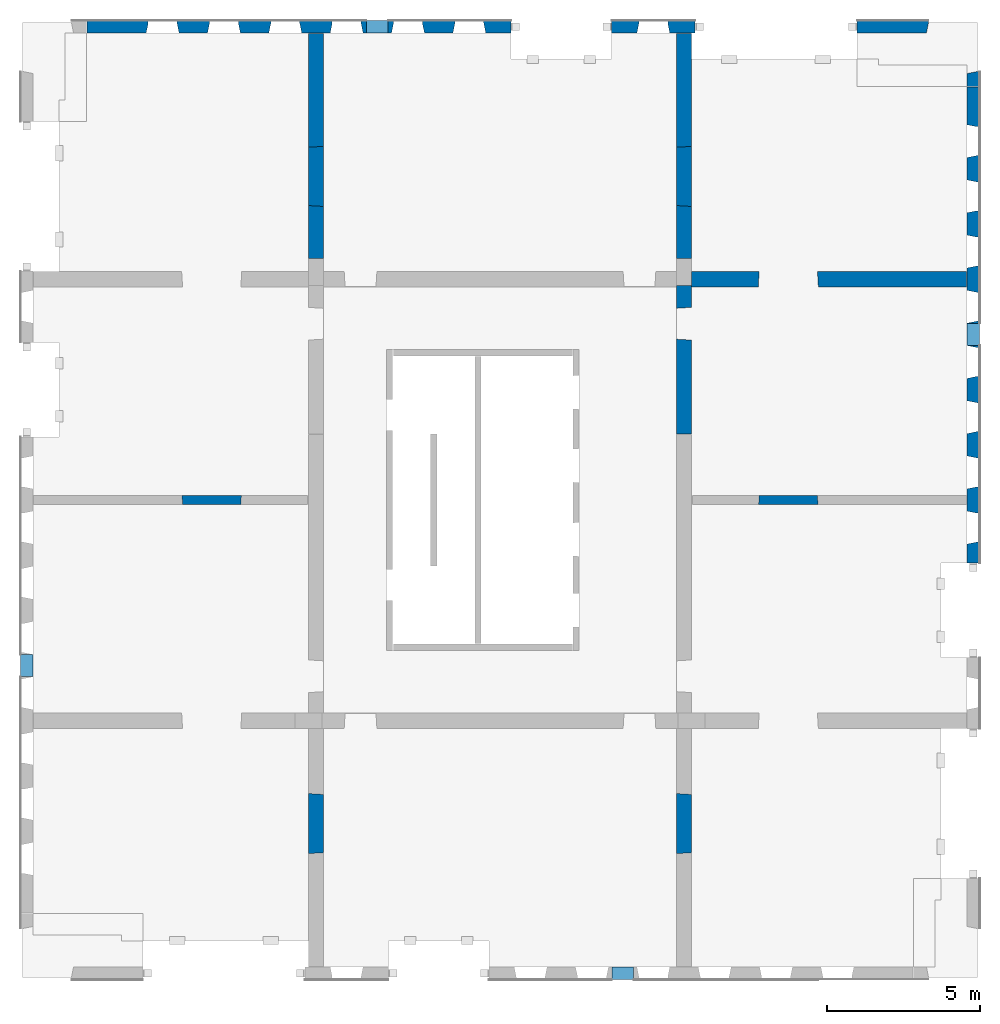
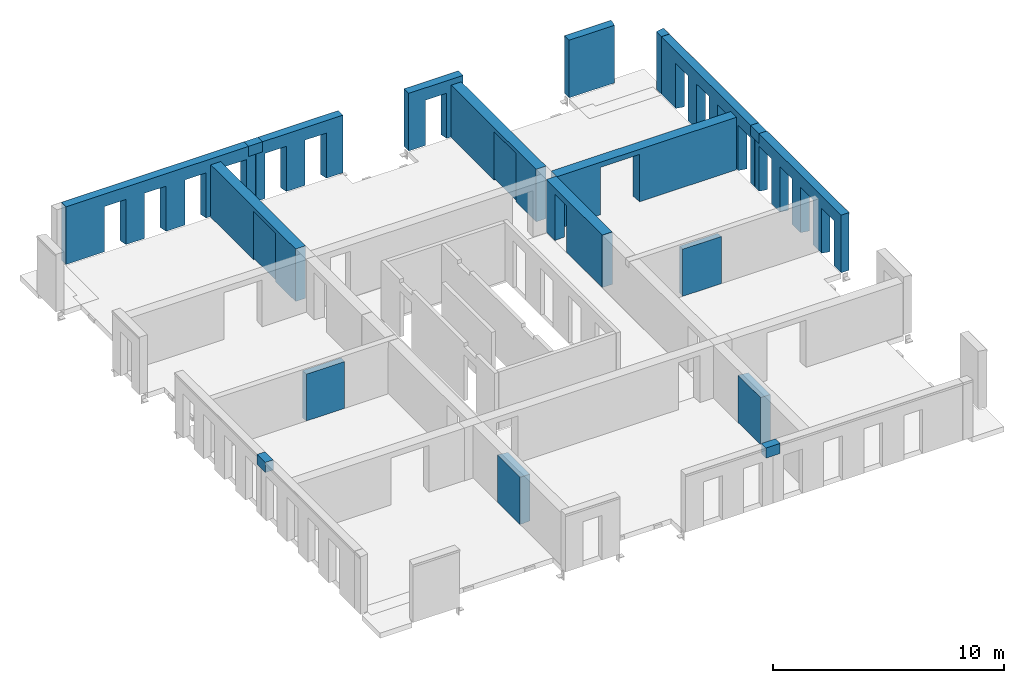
# One storey, part 4 of 5: 21 walls, 25 openings.
"""IFC2X3 building model written with IfcOpenShell, lengths in millimetres."""

import ifcopenshell
import ifcopenshell.guid

model = None  # the IFC model being written
_history = None  # IfcOwnerHistory: only IFC2X3 demands one
_inside = {}  # id of a spatial element -> (the spatial element, [elements in it])
_under = {}  # id of a project, library or spatial element -> (it, [spatial elements below it])
_declared = {}  # id of a project -> (the project, [libraries it declares])
_typed = {}  # id of a type object -> (the type object, [elements of that type])
_made_of = {}  # id of a material, layer set ... -> (it, [elements and type objects made of it])


def new_model(schema):
    """Start an empty IFC model of exactly this schema.

    Asked for "IFC4X3", IfcOpenShell would pick the latest addendum, in which some entities
    have other attributes; the version numbers below select the first issue.
    IFC2X3 requires an IfcOwnerHistory on every rooted entity: one is made here for all.
    """
    global model, _history
    if schema == "IFC4X3":
        model = ifcopenshell.file(schema_version=(4, 3, 0, 0))
    else:
        model = ifcopenshell.file(schema=schema)
    _inside.clear()
    _under.clear()
    _declared.clear()
    _typed.clear()
    _made_of.clear()
    _history = None
    if model.schema == "IFC2X3":
        org = make("IfcOrganization", Name="unknown")
        user = make(
            "IfcPersonAndOrganization",
            ThePerson=make("IfcPerson", FamilyName="unknown"),
            TheOrganization=org,
        )
        app = make(
            "IfcApplication",
            ApplicationDeveloper=org,
            Version="unknown",
            ApplicationFullName="unknown",
            ApplicationIdentifier="unknown",
        )
        _history = make(
            "IfcOwnerHistory",
            OwningUser=user,
            OwningApplication=app,
            ChangeAction="ADDED",
            CreationDate=0,
        )
    return model


def make(cls, **values):
    """One entity of the class cls with the attributes given. An attribute that is None is left unset."""
    return model.create_entity(
        cls, **{name: value for name, value in values.items() if value is not None}
    )


def entity(cls, *values):
    """Any entity or typed value of the class cls, its attributes in the order of the schema. None: left unset."""
    e = model.create_entity(cls)
    for i, value in enumerate(values):
        if value is not None:
            e[i] = value
    return e


def rooted(cls, **values):
    """An entity with a GlobalId (a new one), such as an element, a storey or a relation."""
    return make(cls, GlobalId=ifcopenshell.guid.new(), OwnerHistory=_history, **values)


def si_unit(unit_type, name, prefix=None):
    """IfcSIUnit, for example si_unit("LENGTHUNIT", "METRE", prefix="MILLI")."""
    return make("IfcSIUnit", UnitType=unit_type, Prefix=prefix, Name=name)


def converted_unit(unit_type, name, factor, base, dimensions=None, offset=None):
    """IfcConversionBasedUnit, such as the inch: factor (a typed value) times the base unit."""
    return make(
        "IfcConversionBasedUnit"
        if offset is None
        else "IfcConversionBasedUnitWithOffset",
        ConversionOffset=offset,
        Dimensions=None
        if dimensions is None
        else entity("IfcDimensionalExponents", *dimensions),
        UnitType=unit_type,
        Name=name,
        ConversionFactor=make(
            "IfcMeasureWithUnit", ValueComponent=factor, UnitComponent=base
        ),
    )


def derived_unit(unit_type, elements):
    """IfcDerivedUnit: a product of units, each with its exponent."""
    return make(
        "IfcDerivedUnit",
        Elements=[
            make("IfcDerivedUnitElement", Unit=unit, Exponent=power)
            for unit, power in elements
        ],
        UnitType=unit_type,
    )


def assignment(units):
    """IfcUnitAssignment: the units of a project."""
    return None if units is None else make("IfcUnitAssignment", Units=units)


def point(xyz):
    """IfcCartesianPoint."""
    return None if xyz is None else make("IfcCartesianPoint", Coordinates=xyz)


def direction(xyz):
    """IfcDirection."""
    return None if xyz is None else make("IfcDirection", DirectionRatios=xyz)


def frame(location, z_axis=None, x_axis=None):
    """IfcAxis2Placement3D, a coordinate frame: its origin and axes. An axis left out is left unset."""
    return make(
        "IfcAxis2Placement3D",
        Location=point(location),
        Axis=direction(z_axis),
        RefDirection=direction(x_axis),
    )


def frame_2d(location, x_axis=None):
    """IfcAxis2Placement2D, a coordinate frame in the plane: its origin and x axis."""
    return make(
        "IfcAxis2Placement2D", Location=point(location), RefDirection=direction(x_axis)
    )


def origin():
    """The frame at (0, 0, 0) with its axes left unset."""
    return frame((0.0, 0.0, 0.0))


def place(relative_to, where):
    """IfcLocalPlacement: puts the frame where relative to a parent placement (None: the world)."""
    return make(
        "IfcLocalPlacement", PlacementRelTo=relative_to, RelativePlacement=where
    )


def context(
    kind, dimensions, precision=None, world=None, true_north=None, identifier=None
):
    """IfcGeometricRepresentationContext, for example the 3D "Model" context."""
    return make(
        "IfcGeometricRepresentationContext",
        ContextIdentifier=identifier,
        ContextType=kind,
        CoordinateSpaceDimension=dimensions,
        Precision=precision,
        WorldCoordinateSystem=world,
        TrueNorth=true_north,
    )


def subcontext(parent, identifier, kind, view, scale=None):
    """IfcGeometricRepresentationSubContext, for example "Body" below "Model"."""
    return make(
        "IfcGeometricRepresentationSubContext",
        ContextIdentifier=identifier,
        ContextType=kind,
        ParentContext=parent,
        TargetScale=scale,
        TargetView=view,
    )


def project(units=None, contexts=None):
    """IfcProject with its units and contexts."""
    return rooted(
        "IfcProject",
        Name="project",
        RepresentationContexts=contexts,
        UnitsInContext=assignment(units),
    )


def spatial(cls, under=None, at=None, **own):
    """A site, building, storey or space (cls), placed at a placement, below another one or the project."""
    s = rooted(cls, ObjectPlacement=at, **own)
    if under is not None:
        _under.setdefault(under.id(), (under, []))[1].append(s)
    return s


def polyline(points):
    """IfcPolyline through the points."""
    return make("IfcPolyline", Points=[point(p) for p in points])


def profile(cls, at=None, kind="AREA", **sizes):
    """A parametric profile (cls). Its sizes go by their IFC names, for example OverallWidth=200.0."""
    return make(cls, ProfileType=kind, Position=at, **sizes)


def rectangle(**sizes):
    """IfcRectangleProfileDef."""
    return profile("IfcRectangleProfileDef", **sizes)


def extrude(swept, where, along, depth):
    """IfcExtrudedAreaSolid: the profile swept, set in the frame where, extruded along a direction by depth."""
    return make(
        "IfcExtrudedAreaSolid",
        SweptArea=swept,
        Position=where,
        ExtrudedDirection=direction(along),
        Depth=depth,
    )


def clip(a, b, op="DIFFERENCE"):
    """IfcBooleanClippingResult: the solid a cut by the half space b."""
    return make(
        "IfcBooleanClippingResult", Operator=op, FirstOperand=a, SecondOperand=b
    )


def bounded_halfspace(plane, agree, where, boundary):
    """IfcPolygonalBoundedHalfSpace: a half space limited to a polygon's prism."""
    return make(
        "IfcPolygonalBoundedHalfSpace",
        BaseSurface=make("IfcPlane", Position=plane),
        AgreementFlag=agree,
        Position=where,
        PolygonalBoundary=boundary,
    )


def faces_of(points, faces, orient=None, outer=None):
    """IfcFace entities. A face is a list of loops; a loop is a list of indices into points, from 0.

    orient and outer hold one flag for each loop. By default every Orientation is true, the
    first loop of a face is its IfcFaceOuterBound and the others are IfcFaceBound.
    """
    made = []
    for i, loops in enumerate(faces):
        bounds = []
        for j, loop in enumerate(loops):
            is_outer = j == 0 if outer is None else outer[i][j]
            bounds.append(
                make(
                    "IfcFaceOuterBound" if is_outer else "IfcFaceBound",
                    Bound=make("IfcPolyLoop", Polygon=[points[k] for k in loop]),
                    Orientation=True if orient is None else orient[i][j],
                )
            )
        made.append(make("IfcFace", Bounds=bounds))
    return made


def faceted_brep(points, faces, orient=None, outer=None, voids=None):
    """IfcFacetedBrep: a solid bounded by flat faces; with voids (closed shells), ...WithVoids."""
    shared = [point(p) for p in points]
    hull = make("IfcClosedShell", CfsFaces=faces_of(shared, faces, orient, outer))
    if voids is None:
        return make("IfcFacetedBrep", Outer=hull)
    return make(
        "IfcFacetedBrepWithVoids",
        Outer=hull,
        Voids=[
            make(cls, CfsFaces=faces_of(shared, fs, o, b)) for cls, fs, o, b in voids
        ],
    )


def shape(context_of_items, identifier, shape_type, items):
    """IfcShapeRepresentation: the items that make up one representation, for example the "Body"."""
    return make(
        "IfcShapeRepresentation",
        ContextOfItems=context_of_items,
        RepresentationIdentifier=identifier,
        RepresentationType=shape_type,
        Items=items,
    )


def material(Name=None, Category=None):
    """IfcMaterial."""
    return make("IfcMaterial", Name=Name, Category=Category)


def layer(
    of_material, thickness, ventilated=None, Name=None, Category=None, Priority=None
):
    """IfcMaterialLayer: one layer of a wall or slab, of a material (None: an air gap)."""
    return make(
        "IfcMaterialLayer",
        Material=of_material,
        LayerThickness=thickness,
        IsVentilated=ventilated,
        Name=Name,
        Category=Category,
        Priority=Priority,
    )


def layer_set(layers, Name=None):
    """IfcMaterialLayerSet."""
    return make("IfcMaterialLayerSet", MaterialLayers=layers, LayerSetName=Name)


def layer_usage(for_layer_set, set_direction, sense, offset, extent=None):
    """IfcMaterialLayerSetUsage: how a layer set lies in its element."""
    return make(
        "IfcMaterialLayerSetUsage",
        ForLayerSet=for_layer_set,
        LayerSetDirection=set_direction,
        DirectionSense=sense,
        OffsetFromReferenceLine=offset,
        ReferenceExtent=extent,
    )


def made_of(thing, what):
    """Note that an element or type object is made of a material, layer set ...; save() writes the relation."""
    if what is not None:
        _made_of.setdefault(what.id(), (what, []))[1].append(thing)
    return thing


def type_object(cls, material=None, **own):
    """A type object (cls), such as IfcWallType, which elements share."""
    return made_of(rooted(cls, **own), material)


def element(
    cls,
    number,
    at=None,
    inside=None,
    cuts=None,
    type_object=None,
    material=None,
    context=None,
    identifier="Body",
    shape_type=None,
    held_by="IfcProductDefinitionShape",
    body=None,
    shapes=None,
    **own,
):
    """One element of the class cls, such as IfcWall. Its Tag is "e" and its number.

    at: its placement. inside: the storey or other place that contains it. cuts: it is an
    opening in that element (IfcRelVoidsElement). A single representation is given by context,
    identifier, shape_type and body (its items); several are given by shapes. held_by: the class
    of the entity that holds the representations. save() writes the other relations.
    """
    e = rooted(cls, Tag="e%d" % number, ObjectPlacement=at, **own)
    if body is not None:
        shapes = [shape(context, identifier, shape_type, body)]
    if shapes is not None:
        e.Representation = make(held_by, Representations=shapes)
    if inside is not None:
        _inside.setdefault(inside.id(), (inside, []))[1].append(e)
    if cuts is not None:
        rooted(
            "IfcRelVoidsElement", RelatingBuildingElement=cuts, RelatedOpeningElement=e
        )
    if type_object is not None:
        _typed.setdefault(type_object.id(), (type_object, []))[1].append(e)
    return made_of(e, material)


def aggregate(whole, parts):
    """IfcRelAggregates: a whole, such as a stair, and the parts it consists of."""
    return rooted("IfcRelAggregates", RelatingObject=whole, RelatedObjects=parts)


def save(model, path):
    """Write the relations noted so far, then the file.

    IfcRelAggregates (storeys below a building ...), IfcRelContainedInSpatialStructure (elements
    in a storey), IfcRelDefinesByType, IfcRelAssociatesMaterial and IfcRelDeclares: one each for
    every whole, place, type object, material and project.
    """
    for whole, parts in _under.values():
        aggregate(whole, parts)
    for where, things in _inside.values():
        rooted(
            "IfcRelContainedInSpatialStructure",
            RelatedElements=things,
            RelatingStructure=where,
        )
    for kind, things in _typed.values():
        rooted("IfcRelDefinesByType", RelatedObjects=things, RelatingType=kind)
    for what, things in _made_of.values():
        rooted("IfcRelAssociatesMaterial", RelatedObjects=things, RelatingMaterial=what)
    for by, libraries in _declared.values():
        rooted("IfcRelDeclares", RelatingContext=by, RelatedDefinitions=libraries)
    model.write(path)


model = new_model("IFC2X3")

# Units and contexts
model_context = context("Model", 3, precision=0.01, world=origin(), true_north=direction((6.12303176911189e-17, 1.0)))
body_context = subcontext(model_context, "Body", "Model", "MODEL_VIEW")
ifc_project = project(units=[si_unit("LENGTHUNIT", "METRE", prefix="MILLI"), si_unit("AREAUNIT", "SQUARE_METRE"), si_unit("VOLUMEUNIT", "CUBIC_METRE"), converted_unit("PLANEANGLEUNIT", "DEGREE", entity("IfcRatioMeasure", 0.0174532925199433), si_unit("PLANEANGLEUNIT", "RADIAN"), dimensions=[0, 0, 0, 0, 0, 0, 0]), si_unit("MASSUNIT", "GRAM", prefix="KILO"), derived_unit("MASSDENSITYUNIT", [(si_unit("MASSUNIT", "GRAM", prefix="KILO"), 1), (si_unit("LENGTHUNIT", "METRE"), -3)]), si_unit("TIMEUNIT", "SECOND"), si_unit("FREQUENCYUNIT", "HERTZ"), si_unit("THERMODYNAMICTEMPERATUREUNIT", "DEGREE_CELSIUS"), derived_unit("THERMALTRANSMITTANCEUNIT", [(si_unit("MASSUNIT", "GRAM", prefix="KILO"), 1), (si_unit("THERMODYNAMICTEMPERATUREUNIT", "KELVIN"), -1), (si_unit("TIMEUNIT", "SECOND"), -3)]), derived_unit("VOLUMETRICFLOWRATEUNIT", [(si_unit("LENGTHUNIT", "METRE"), 3), (si_unit("TIMEUNIT", "SECOND"), -1)]), si_unit("ELECTRICCURRENTUNIT", "AMPERE"), si_unit("ELECTRICVOLTAGEUNIT", "VOLT"), si_unit("POWERUNIT", "WATT"), si_unit("FORCEUNIT", "NEWTON", prefix="KILO"), si_unit("ILLUMINANCEUNIT", "LUX"), si_unit("LUMINOUSFLUXUNIT", "LUMEN"), si_unit("LUMINOUSINTENSITYUNIT", "CANDELA"), derived_unit("USERDEFINED", [(si_unit("MASSUNIT", "GRAM", prefix="KILO"), -1), (si_unit("LENGTHUNIT", "METRE"), -2), (si_unit("TIMEUNIT", "SECOND"), 3), (si_unit("LUMINOUSFLUXUNIT", "LUMEN"), 1)]), derived_unit("LINEARVELOCITYUNIT", [(si_unit("LENGTHUNIT", "METRE"), 1), (si_unit("TIMEUNIT", "SECOND"), -1)]), si_unit("PRESSUREUNIT", "PASCAL"), derived_unit("USERDEFINED", [(si_unit("LENGTHUNIT", "METRE"), -2), (si_unit("MASSUNIT", "GRAM", prefix="KILO"), 1), (si_unit("TIMEUNIT", "SECOND"), -2)])], contexts=[model_context])

# Site, building, storey
site_placement = place(None, origin())
site = spatial("IfcSite", under=ifc_project, at=site_placement, Name="Default", CompositionType="ELEMENT")
building_placement = place(site_placement, origin())
building = spatial("IfcBuilding", under=site, at=building_placement, Name="niet gebruiken", CompositionType="ELEMENT")
storey_placement = place(building_placement, frame((0.0, 0.0, 27180.0)))
storey = spatial("IfcBuildingStorey", under=building, at=storey_placement, Name="08 achtste verdieping", CompositionType="ELEMENT", Elevation=27180.0)

# Wall, opening
ifc_material_1 = material(Name="NLRS_f2_beton prefab")
ifc_layer_1 = layer(ifc_material_1, 400.0)
ifc_layer_set_1 = layer_set([ifc_layer_1], Name="Basic Wall:NLRS_21.21_WA_beton prefab d=400/420_gen")
ifc_layer_usage_1 = layer_usage(ifc_layer_set_1, "AXIS2", "NEGATIVE", 200.0)
wall_type_1 = type_object("IfcWallType", Name="Basic Wall:NLRS_21.21_WA_beton prefab d=400/420_gen", PredefinedType="STANDARD", material=ifc_layer_set_1)
wall_1_placement = place(storey_placement, frame((145390.0, 32930.0, -50.0)))
wall_1 = element("IfcWallStandardCase", 1, at=wall_1_placement, inside=storey, type_object=wall_type_1, material=ifc_layer_usage_1, Name="Basic Wall:NLRS_21.21_WA_beton prefab d=400/420_gen", ObjectType="Basic Wall:NLRS_21.21_WA_beton prefab d=400/420_gen", context=body_context, shape_type="SweptSolid", body=[
    extrude(rectangle(XDim=2720.00000000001, YDim=399.999999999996, at=frame_2d((1360.0, -4.54747350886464e-13), x_axis=(-1.0, 0.0))), origin(), (0.0, 0.0, 1.0), 3040.0),
])
opening_1_placement = place(wall_1_placement, frame((825.0, -200.0, -20.0)))
element("IfcOpeningElement", 2, at=opening_1_placement, cuts=wall_1, Name="Basic Wall:NLRS_21.21_WA_beton prefab d=400/420_gen", ObjectType="Opening", context=body_context, shape_type="Brep", body=[
    faceted_brep([(0.0, 0.0, 2405.0), (0.0, 0.0, 0.0), (1070.0, 0.0, 0.0), (1070.0, 0.0, 2405.0), (1005.0, 319.0, 2370.0), (65.0, 319.0, 2370.0), (1005.0, 319.0, 0.0), (65.0, 319.0, 0.0), (65.0, 400.0, 0.0), (1005.0, 400.0, 0.0), (65.0, 400.0, 2370.0), (1005.0, 400.0, 2370.0)], [[[0, 1, 2, 3]], [[3, 4, 5, 0]], [[2, 6, 4, 3]], [[1, 7, 8, 9, 6, 2]], [[0, 5, 7, 1]], [[10, 11, 9, 8]], [[10, 5, 4, 11]], [[11, 4, 6, 9]], [[8, 7, 5, 10]]]),
])

ifc_layer_usage_2 = layer_usage(ifc_layer_set_1, "AXIS2", "NEGATIVE", 200.0)
wall_2_placement = place(storey_placement, frame((153390.0, 32930.0, -50.0)))
wall_2 = element("IfcWallStandardCase", 3, at=wall_2_placement, inside=storey, type_object=wall_type_1, material=ifc_layer_usage_2, Name="Basic Wall:NLRS_21.21_WA_beton prefab d=400/420_gen", ObjectType="Basic Wall:NLRS_21.21_WA_beton prefab d=400/420_gen", context=body_context, shape_type="SweptSolid", body=[
    extrude(rectangle(XDim=2330.00000000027, YDim=400.000000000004, at=frame_2d((1165.00000000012, 7.38964445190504e-13), x_axis=(-1.0, 0.0))), origin(), (0.0, 0.0, 1.0), 3040.0),
])
opening_2_placement = place(wall_2_placement, frame((2265.0, -200.0, 0.0)))
element("IfcOpeningElement", 4, at=opening_2_placement, cuts=wall_2, Name="Basic Wall:NLRS_21.21_WA_beton prefab d=400/420_gen", ObjectType="Opening", context=body_context, shape_type="Brep", body=[
    faceted_brep([(65.0, 0.0, 3040.0), (65.0, 319.0, 3040.0), (0.0, 0.0, 3040.0), (65.0, 0.0, 0.0), (0.0, 0.0, 0.0), (65.0, 319.0, 0.0)], [[[0, 1, 2]], [[3, 4, 5]], [[2, 4, 3, 0]], [[0, 3, 5, 1]], [[1, 5, 4, 2]]]),
])

ifc_layer_usage_3 = layer_usage(ifc_layer_set_1, "AXIS2", "NEGATIVE", 200.0)
wall_3_placement = place(storey_placement, frame((157180.0, 31470.0, -50.0), z_axis=(0.0, 0.0, 1.0), x_axis=(0.0, -1.0, 0.0)))
wall_3 = element("IfcWallStandardCase", 5, at=wall_3_placement, inside=storey, type_object=wall_type_1, material=ifc_layer_usage_3, Name="Basic Wall:NLRS_21.21_WA_beton prefab d=400/420_gen", ObjectType="Basic Wall:NLRS_21.21_WA_beton prefab d=400/420_gen", context=body_context, shape_type="SweptSolid", body=[
    extrude(rectangle(XDim=490.000000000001, YDim=399.999999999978, at=frame_2d((245.000000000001, -7.21911419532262e-12), x_axis=(-1.0, 0.0))), origin(), (0.0, 0.0, 1.0), 3040.0),
])
opening_3_placement = place(wall_3_placement, frame((65.0, -200.0, 0.0)))
element("IfcOpeningElement", 6, at=opening_3_placement, cuts=wall_3, Name="Basic Wall:NLRS_21.21_WA_beton prefab d=400/420_gen", ObjectType="Opening", context=body_context, shape_type="Brep", body=[
    faceted_brep([(-65.0, 0.0, 3040.0), (0.0, 0.0, 3040.0), (-65.0, 319.0, 3040.0), (-65.0, 0.0, 0.0), (-65.0, 319.0, 0.0), (0.0, 0.0, 0.0)], [[[0, 1, 2]], [[3, 4, 5]], [[1, 0, 3, 5]], [[0, 2, 4, 3]], [[2, 1, 5, 4]]]),
])

# Wall, openings
ifc_layer_usage_4 = layer_usage(ifc_layer_set_1, "AXIS2", "NEGATIVE", 200.0)
wall_4_placement = place(storey_placement, frame((128290.0, 32930.0, -50.0)))
wall_4 = element("IfcWallStandardCase", 7, at=wall_4_placement, inside=storey, type_object=wall_type_1, material=ifc_layer_usage_4, Name="Basic Wall:NLRS_21.21_WA_beton prefab d=400/420_gen", ObjectType="Basic Wall:NLRS_21.21_WA_beton prefab d=400/420_gen", context=body_context, shape_type="SweptSolid", body=[
    extrude(rectangle(XDim=9449.99999999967, YDim=399.999999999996, at=frame_2d((4724.99999999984, 0.0), x_axis=(-1.0, 0.0))), origin(), (0.0, 0.0, 1.0), 3040.0),
])
opening_4_placement = place(wall_4_placement, frame((3925.0, -200.0, -20.0)))
element("IfcOpeningElement", 8, at=opening_4_placement, cuts=wall_4, Name="Basic Wall:NLRS_21.21_WA_beton prefab d=400/420_gen", ObjectType="Opening", context=body_context, shape_type="Brep", body=[
    faceted_brep([(1070.0, 0.0, 2405.0), (0.0, 0.0, 2405.0), (0.0, 0.0, 0.0), (1070.0, 0.0, 0.0), (1005.0, 319.0, 2370.0), (65.0, 319.0, 2370.0), (65.0, 319.0, 0.0), (65.0, 400.0, 0.0), (1005.0, 400.0, 0.0), (1005.0, 319.0, 0.0), (1005.0, 400.0, 2370.0), (65.0, 400.0, 2370.0)], [[[0, 1, 2, 3]], [[1, 0, 4, 5]], [[2, 1, 5, 6]], [[3, 2, 6, 7, 8, 9]], [[0, 3, 9, 4]], [[10, 8, 7, 11]], [[10, 11, 5, 4]], [[11, 7, 6, 5]], [[8, 10, 4, 9]]]),
])
opening_5_placement = place(wall_4_placement, frame((1925.0, -200.0, -20.0)))
element("IfcOpeningElement", 9, at=opening_5_placement, cuts=wall_4, Name="Basic Wall:NLRS_21.21_WA_beton prefab d=400/420_gen", ObjectType="Opening", context=body_context, shape_type="Brep", body=[
    faceted_brep([(1070.0, 0.0, 2405.0), (0.0, 0.0, 2405.0), (0.0, 0.0, 0.0), (1070.0, 0.0, 0.0), (1005.0, 319.0, 2370.0), (65.0, 319.0, 2370.0), (65.0, 319.0, 0.0), (65.0, 400.0, 0.0), (1005.0, 400.0, 0.0), (1005.0, 319.0, 0.0), (1005.0, 400.0, 2370.0), (65.0, 400.0, 2370.0)], [[[0, 1, 2, 3]], [[1, 0, 4, 5]], [[2, 1, 5, 6]], [[3, 2, 6, 7, 8, 9]], [[0, 3, 9, 4]], [[10, 8, 7, 11]], [[10, 11, 5, 4]], [[11, 7, 6, 5]], [[8, 10, 4, 9]]]),
])
opening_6_placement = place(wall_4_placement, frame((7925.0, -200.0, -20.0)))
element("IfcOpeningElement", 10, at=opening_6_placement, cuts=wall_4, Name="Basic Wall:NLRS_21.21_WA_beton prefab d=400/420_gen", ObjectType="Opening", context=body_context, shape_type="Brep", body=[
    faceted_brep([(1070.0, 0.0, 2405.0), (0.0, 0.0, 2405.0), (0.0, 0.0, 0.0), (1070.0, 0.0, 0.0), (1005.0, 319.0, 2370.0), (65.0, 319.0, 2370.0), (65.0, 319.0, 0.0), (65.0, 400.0, 0.0), (1005.0, 400.0, 0.0), (1005.0, 319.0, 0.0), (1005.0, 400.0, 2370.0), (65.0, 400.0, 2370.0)], [[[0, 1, 2, 3]], [[1, 0, 4, 5]], [[2, 1, 5, 6]], [[3, 2, 6, 7, 8, 9]], [[0, 3, 9, 4]], [[10, 8, 7, 11]], [[10, 11, 5, 4]], [[11, 7, 6, 5]], [[8, 10, 4, 9]]]),
])
opening_7_placement = place(wall_4_placement, frame((5925.0, -200.0, -20.0)))
element("IfcOpeningElement", 11, at=opening_7_placement, cuts=wall_4, Name="Basic Wall:NLRS_21.21_WA_beton prefab d=400/420_gen", ObjectType="Opening", context=body_context, shape_type="Brep", body=[
    faceted_brep([(1070.0, 0.0, 2405.0), (0.0, 0.0, 2405.0), (0.0, 0.0, 0.0), (1070.0, 0.0, 0.0), (1005.0, 319.0, 2370.0), (65.0, 319.0, 2370.0), (65.0, 319.0, 0.0), (65.0, 400.0, 0.0), (1005.0, 400.0, 0.0), (1005.0, 319.0, 0.0), (1005.0, 400.0, 2370.0), (65.0, 400.0, 2370.0)], [[[0, 1, 2, 3]], [[1, 0, 4, 5]], [[2, 1, 5, 6]], [[3, 2, 6, 7, 8, 9]], [[0, 3, 9, 4]], [[10, 8, 7, 11]], [[10, 11, 5, 4]], [[11, 7, 6, 5]], [[8, 10, 4, 9]]]),
])
opening_8_placement = place(wall_4_placement, origin())
element("IfcOpeningElement", 12, at=opening_8_placement, cuts=wall_4, Name="Basic Wall:NLRS_21.21_WA_beton prefab d=400/420_gen", ObjectType="Opening", context=body_context, shape_type="SweptSolid", body=[
    extrude(rectangle(XDim=535.0, YDim=345.000000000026, at=frame_2d((0.0, 8.66862137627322e-12), x_axis=(1.0, 0.0))), frame((9277.49999999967, 200.0, 2772.5), z_axis=(0.0, -1.0, 0.0), x_axis=(0.0, 0.0, 1.0)), (0.0, 0.0, 1.0), 400.0),
])

ifc_layer_usage_5 = layer_usage(ifc_layer_set_1, "AXIS2", "NEGATIVE", 200.0)
wall_5_placement = place(storey_placement, frame((137760.0, 32930.0, -50.0)))
wall_5 = element("IfcWallStandardCase", 13, at=wall_5_placement, inside=storey, type_object=wall_type_1, material=ifc_layer_usage_5, Name="Basic Wall:NLRS_21.21_WA_beton prefab d=400/420_gen", ObjectType="Basic Wall:NLRS_21.21_WA_beton prefab d=400/420_gen", context=body_context, shape_type="SweptSolid", body=[
    extrude(rectangle(XDim=4350.0000000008, YDim=399.999999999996, at=frame_2d((2175.0000000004, 0.0), x_axis=(-1.0, 0.0))), origin(), (0.0, 0.0, 1.0), 3040.0),
])
opening_9_placement = place(wall_5_placement, frame((2455.0, -200.0, -20.0)))
element("IfcOpeningElement", 14, at=opening_9_placement, cuts=wall_5, Name="Basic Wall:NLRS_21.21_WA_beton prefab d=400/420_gen", ObjectType="Opening", context=body_context, shape_type="Brep", body=[
    faceted_brep([(1070.0, 0.0, 2405.0), (0.0, 0.0, 2405.0), (0.0, 0.0, 0.0), (1070.0, 0.0, 0.0), (1005.0, 319.0, 2370.0), (65.0, 319.0, 2370.0), (65.0, 319.0, 0.0), (65.0, 400.0, 0.0), (1005.0, 400.0, 0.0), (1005.0, 319.0, 0.0), (1005.0, 400.0, 2370.0), (65.0, 400.0, 2370.0)], [[[0, 1, 2, 3]], [[1, 0, 4, 5]], [[2, 1, 5, 6]], [[3, 2, 6, 7, 8, 9]], [[0, 3, 9, 4]], [[10, 8, 7, 11]], [[10, 11, 5, 4]], [[11, 7, 6, 5]], [[8, 10, 4, 9]]]),
])
opening_10_placement = place(wall_5_placement, frame((455.0, -200.0, -20.0)))
element("IfcOpeningElement", 15, at=opening_10_placement, cuts=wall_5, Name="Basic Wall:NLRS_21.21_WA_beton prefab d=400/420_gen", ObjectType="Opening", context=body_context, shape_type="Brep", body=[
    faceted_brep([(1070.0, 0.0, 2405.0), (0.0, 0.0, 2405.0), (0.0, 0.0, 0.0), (1070.0, 0.0, 0.0), (1005.0, 319.0, 2370.0), (65.0, 319.0, 2370.0), (65.0, 319.0, 0.0), (65.0, 400.0, 0.0), (1005.0, 400.0, 0.0), (1005.0, 319.0, 0.0), (1005.0, 400.0, 2370.0), (65.0, 400.0, 2370.0)], [[[0, 1, 2, 3]], [[1, 0, 4, 5]], [[2, 1, 5, 6]], [[3, 2, 6, 7, 8, 9]], [[0, 3, 9, 4]], [[10, 8, 7, 11]], [[10, 11, 5, 4]], [[11, 7, 6, 5]], [[8, 10, 4, 9]]]),
])
opening_11_placement = place(wall_5_placement, origin())
element("IfcOpeningElement", 16, at=opening_11_placement, cuts=wall_5, Name="Basic Wall:NLRS_21.21_WA_beton prefab d=400/420_gen", ObjectType="Opening", context=body_context, shape_type="SweptSolid", body=[
    extrude(rectangle(XDim=535.0, YDim=345.000000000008, at=frame_2d((0.0, 0.0), x_axis=(0.0, 1.0))), frame((172.499999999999, 200.0, 2772.5), z_axis=(0.0, -1.0, 0.0), x_axis=(-1.0, 0.0, 0.0)), (0.0, 0.0, 1.0), 400.0),
])

ifc_layer_usage_6 = layer_usage(ifc_layer_set_1, "AXIS2", "NEGATIVE", 200.0)
wall_6_placement = place(storey_placement, frame((157180.0, 30960.0, -50.0), z_axis=(0.0, 0.0, 1.0), x_axis=(0.0, -1.0, 0.0)))
wall_6 = element("IfcWallStandardCase", 17, at=wall_6_placement, inside=storey, type_object=wall_type_1, material=ifc_layer_usage_6, Name="Basic Wall:NLRS_21.21_WA_beton prefab d=400/420_gen", ObjectType="Basic Wall:NLRS_21.21_WA_beton prefab d=400/420_gen", context=body_context, shape_type="SweptSolid", body=[
    extrude(rectangle(XDim=8049.99999999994, YDim=399.999999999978, at=frame_2d((4024.99999999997, 8.5265128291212e-14), x_axis=(-1.0, 0.0))), origin(), (0.0, 0.0, 1.0), 3040.0),
])
opening_12_placement = place(wall_6_placement, frame((2295.0, -200.0, -20.0)))
element("IfcOpeningElement", 18, at=opening_12_placement, cuts=wall_6, Name="Basic Wall:NLRS_21.21_WA_beton prefab d=400/420_gen", ObjectType="Opening", context=body_context, shape_type="Brep", body=[
    faceted_brep([(-1070.0, 0.0, 2405.0), (-1070.0, 0.0, 0.0), (0.0, 0.0, 0.0), (0.0, 0.0, 2405.0), (-65.0, 319.0, 2370.0), (-1005.0, 319.0, 2370.0), (-65.0, 319.0, 0.0), (-1005.0, 319.0, 0.0), (-1005.0, 400.0, 0.0), (-65.0, 400.0, 0.0), (-1005.0, 400.0, 2370.0), (-65.0, 400.0, 2370.0)], [[[0, 1, 2, 3]], [[3, 4, 5, 0]], [[2, 6, 4, 3]], [[1, 7, 8, 9, 6, 2]], [[0, 5, 7, 1]], [[10, 11, 9, 8]], [[10, 5, 4, 11]], [[11, 4, 6, 9]], [[8, 7, 5, 10]]]),
])
opening_13_placement = place(wall_6_placement, frame((4095.0, -200.0, -20.0)))
element("IfcOpeningElement", 19, at=opening_13_placement, cuts=wall_6, Name="Basic Wall:NLRS_21.21_WA_beton prefab d=400/420_gen", ObjectType="Opening", context=body_context, shape_type="Brep", body=[
    faceted_brep([(-1070.0, 0.0, 2405.0), (-1070.0, 0.0, 0.0), (0.0, 0.0, 0.0), (0.0, 0.0, 2405.0), (-65.0, 319.0, 2370.0), (-1005.0, 319.0, 2370.0), (-65.0, 319.0, 0.0), (-1005.0, 319.0, 0.0), (-1005.0, 400.0, 0.0), (-65.0, 400.0, 0.0), (-1005.0, 400.0, 2370.0), (-65.0, 400.0, 2370.0)], [[[0, 1, 2, 3]], [[3, 4, 5, 0]], [[2, 6, 4, 3]], [[1, 7, 8, 9, 6, 2]], [[0, 5, 7, 1]], [[10, 11, 9, 8]], [[10, 5, 4, 11]], [[11, 4, 6, 9]], [[8, 7, 5, 10]]]),
])
opening_14_placement = place(wall_6_placement, frame((5895.0, -200.0, -20.0)))
element("IfcOpeningElement", 20, at=opening_14_placement, cuts=wall_6, Name="Basic Wall:NLRS_21.21_WA_beton prefab d=400/420_gen", ObjectType="Opening", context=body_context, shape_type="Brep", body=[
    faceted_brep([(-1070.0, 0.0, 2405.0), (-1070.0, 0.0, 0.0), (0.0, 0.0, 0.0), (0.0, 0.0, 2405.0), (-65.0, 319.0, 2370.0), (-1005.0, 319.0, 2370.0), (-65.0, 319.0, 0.0), (-1005.0, 319.0, 0.0), (-1005.0, 400.0, 0.0), (-65.0, 400.0, 0.0), (-1005.0, 400.0, 2370.0), (-65.0, 400.0, 2370.0)], [[[0, 1, 2, 3]], [[3, 4, 5, 0]], [[2, 6, 4, 3]], [[1, 7, 8, 9, 6, 2]], [[0, 5, 7, 1]], [[10, 11, 9, 8]], [[10, 5, 4, 11]], [[11, 4, 6, 9]], [[8, 7, 5, 10]]]),
])
opening_15_placement = place(wall_6_placement, frame((7695.0, -200.0, -20.0)))
element("IfcOpeningElement", 21, at=opening_15_placement, cuts=wall_6, Name="Basic Wall:NLRS_21.21_WA_beton prefab d=400/420_gen", ObjectType="Opening", context=body_context, shape_type="Brep", body=[
    faceted_brep([(-1070.0, 0.0, 2405.0), (-1070.0, 0.0, 0.0), (0.0, 0.0, 0.0), (0.0, 0.0, 2405.0), (-65.0, 319.0, 2370.0), (-1005.0, 319.0, 2370.0), (-65.0, 319.0, 0.0), (-1005.0, 319.0, 0.0), (-1005.0, 400.0, 0.0), (-65.0, 400.0, 0.0), (-1005.0, 400.0, 2370.0), (-65.0, 400.0, 2370.0)], [[[0, 1, 2, 3]], [[3, 4, 5, 0]], [[2, 6, 4, 3]], [[1, 7, 8, 9, 6, 2]], [[0, 5, 7, 1]], [[10, 11, 9, 8]], [[10, 5, 4, 11]], [[11, 4, 6, 9]], [[8, 7, 5, 10]]]),
])
opening_16_placement = place(wall_6_placement, origin())
element("IfcOpeningElement", 22, at=opening_16_placement, cuts=wall_6, Name="Basic Wall:NLRS_21.21_WA_beton prefab d=400/420_gen", ObjectType="Opening", context=body_context, shape_type="SweptSolid", body=[
    extrude(rectangle(XDim=535.0, YDim=345.000000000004, at=frame_2d((0.0, 2.1600499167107e-12), x_axis=(1.0, 0.0))), frame((7877.49999999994, 200.0, 2772.5), z_axis=(0.0, -1.0, 0.0), x_axis=(0.0, 0.0, 1.0)), (0.0, 0.0, 1.0), 400.0),
])

ifc_layer_usage_7 = layer_usage(ifc_layer_set_1, "AXIS2", "NEGATIVE", 200.0)
wall_7_placement = place(storey_placement, frame((157180.0, 22890.0, -50.0), z_axis=(0.0, 0.0, 1.0), x_axis=(0.0, -1.0, 0.0)))
wall_7 = element("IfcWallStandardCase", 23, at=wall_7_placement, inside=storey, type_object=wall_type_1, material=ifc_layer_usage_7, Name="Basic Wall:NLRS_21.21_WA_beton prefab d=400/420_gen", ObjectType="Basic Wall:NLRS_21.21_WA_beton prefab d=400/420_gen", context=body_context, shape_type="SweptSolid", body=[
    extrude(rectangle(XDim=7450.0000000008, YDim=399.999999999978, at=frame_2d((3725.0000000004, 1.35429445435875e-11), x_axis=(-1.0, 0.0))), origin(), (0.0, 0.0, 1.0), 3040.0),
])
opening_17_placement = place(wall_7_placement, frame((6825.0, -200.0, -20.0)))
element("IfcOpeningElement", 24, at=opening_17_placement, cuts=wall_7, Name="Basic Wall:NLRS_21.21_WA_beton prefab d=400/420_gen", ObjectType="Opening", context=body_context, shape_type="Brep", body=[
    faceted_brep([(-1070.0, 0.0, 2405.0), (-1070.0, 0.0, 0.0), (0.0, 0.0, 0.0), (0.0, 0.0, 2405.0), (-65.0, 319.0, 2370.0), (-1005.0, 319.0, 2370.0), (-65.0, 319.0, 0.0), (-1005.0, 319.0, 0.0), (-1005.0, 400.0, 0.0), (-65.0, 400.0, 0.0), (-1005.0, 400.0, 2370.0), (-65.0, 400.0, 2370.0)], [[[0, 1, 2, 3]], [[3, 4, 5, 0]], [[2, 6, 4, 3]], [[1, 7, 8, 9, 6, 2]], [[0, 5, 7, 1]], [[10, 11, 9, 8]], [[10, 5, 4, 11]], [[11, 4, 6, 9]], [[8, 7, 5, 10]]]),
])
opening_18_placement = place(wall_7_placement, frame((3225.0, -200.0, -20.0)))
element("IfcOpeningElement", 25, at=opening_18_placement, cuts=wall_7, Name="Basic Wall:NLRS_21.21_WA_beton prefab d=400/420_gen", ObjectType="Opening", context=body_context, shape_type="Brep", body=[
    faceted_brep([(-1070.0, 0.0, 2405.0), (-1070.0, 0.0, 0.0), (0.0, 0.0, 0.0), (0.0, 0.0, 2405.0), (-65.0, 319.0, 2370.0), (-1005.0, 319.0, 2370.0), (-65.0, 319.0, 0.0), (-1005.0, 319.0, 0.0), (-1005.0, 400.0, 0.0), (-65.0, 400.0, 0.0), (-1005.0, 400.0, 2370.0), (-65.0, 400.0, 2370.0)], [[[0, 1, 2, 3]], [[3, 4, 5, 0]], [[2, 6, 4, 3]], [[1, 7, 8, 9, 6, 2]], [[0, 5, 7, 1]], [[10, 11, 9, 8]], [[10, 5, 4, 11]], [[11, 4, 6, 9]], [[8, 7, 5, 10]]]),
])
opening_19_placement = place(wall_7_placement, frame((1425.0, -200.0, -20.0)))
element("IfcOpeningElement", 26, at=opening_19_placement, cuts=wall_7, Name="Basic Wall:NLRS_21.21_WA_beton prefab d=400/420_gen", ObjectType="Opening", context=body_context, shape_type="Brep", body=[
    faceted_brep([(-1070.0, 0.0, 2405.0), (-1070.0, 0.0, 0.0), (0.0, 0.0, 0.0), (0.0, 0.0, 2405.0), (-65.0, 319.0, 2370.0), (-1005.0, 319.0, 2370.0), (-65.0, 319.0, 0.0), (-1005.0, 319.0, 0.0), (-1005.0, 400.0, 0.0), (-65.0, 400.0, 0.0), (-1005.0, 400.0, 2370.0), (-65.0, 400.0, 2370.0)], [[[0, 1, 2, 3]], [[3, 4, 5, 0]], [[2, 6, 4, 3]], [[1, 7, 8, 9, 6, 2]], [[0, 5, 7, 1]], [[10, 11, 9, 8]], [[10, 5, 4, 11]], [[11, 4, 6, 9]], [[8, 7, 5, 10]]]),
])
opening_20_placement = place(wall_7_placement, frame((5025.0, -200.0, -20.0)))
element("IfcOpeningElement", 27, at=opening_20_placement, cuts=wall_7, Name="Basic Wall:NLRS_21.21_WA_beton prefab d=400/420_gen", ObjectType="Opening", context=body_context, shape_type="Brep", body=[
    faceted_brep([(-1070.0, 0.0, 2405.0), (-1070.0, 0.0, 0.0), (0.0, 0.0, 0.0), (0.0, 0.0, 2405.0), (-65.0, 319.0, 2370.0), (-1005.0, 319.0, 2370.0), (-65.0, 319.0, 0.0), (-1005.0, 319.0, 0.0), (-1005.0, 400.0, 0.0), (-65.0, 400.0, 0.0), (-1005.0, 400.0, 2370.0), (-65.0, 400.0, 2370.0)], [[[0, 1, 2, 3]], [[3, 4, 5, 0]], [[2, 6, 4, 3]], [[1, 7, 8, 9, 6, 2]], [[0, 5, 7, 1]], [[10, 11, 9, 8]], [[10, 5, 4, 11]], [[11, 4, 6, 9]], [[8, 7, 5, 10]]]),
])
opening_21_placement = place(wall_7_placement, origin())
element("IfcOpeningElement", 28, at=opening_21_placement, cuts=wall_7, Name="Basic Wall:NLRS_21.21_WA_beton prefab d=400/420_gen", ObjectType="Opening", context=body_context, shape_type="SweptSolid", body=[
    extrude(rectangle(XDim=535.0, YDim=345.000000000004, at=frame_2d((2.1600499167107e-12, 0.0), x_axis=(0.0, 1.0))), frame((172.500000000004, 200.0, 2772.5), z_axis=(0.0, -1.0, 0.0), x_axis=(-1.0, 0.0, 0.0)), (0.0, 0.0, 1.0), 400.0),
])

# Wall, opening
ifc_layer_2 = layer(ifc_material_1, 500.0)
ifc_layer_set_2 = layer_set([ifc_layer_2], Name="Basic Wall:NLRS_22.21_WA_beton prefab d=500_gen")
ifc_layer_usage_8 = layer_usage(ifc_layer_set_2, "AXIS2", "NEGATIVE", 250.0)
wall_type_2 = type_object("IfcWallType", Name="Basic Wall:NLRS_22.21_WA_beton prefab d=500_gen", PredefinedType="STANDARD", material=ifc_layer_set_2)
wall_8_placement = place(storey_placement, frame((147750.0, 25380.0, -70.0), z_axis=(0.0, 0.0, 1.0), x_axis=(0.0, 1.0, 0.0)))
wall_8 = element("IfcWallStandardCase", 29, at=wall_8_placement, inside=storey, type_object=wall_type_2, material=ifc_layer_usage_8, Name="Basic Wall:NLRS_22.21_WA_beton prefab d=500_gen", ObjectType="Basic Wall:NLRS_22.21_WA_beton prefab d=500_gen", context=body_context, shape_type="Clipping", body=[
    clip(extrude(rectangle(XDim=7329.99999999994, YDim=499.99999999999, at=frame_2d((3664.99999999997, 5.88329385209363e-12), x_axis=(-1.0, 0.0))), origin(), (0.0, 0.0, 1.0), 2770.0), bounded_halfspace(frame((1690.0, -250.0, 2590.0), z_axis=(0.0, 0.0598922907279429, 0.998204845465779), x_axis=(-1.0, 0.0, 0.0)), True, frame((1690.0, -250.0, 2590.0), z_axis=(0.0, 0.0598922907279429, 0.998204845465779), x_axis=(-1.0, 0.0, 0.0)), polyline([(0.0, 0.0), (-1960.0, 0.0), (-1930.0, -500.899191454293), (-30.0, -500.899191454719), (0.0, 0.0)]))),
])
opening_22_placement = place(wall_8_placement, frame((1690.0, 250.0, 0.0)))
element("IfcOpeningElement", 30, at=opening_22_placement, cuts=wall_8, Name="Basic Wall:NLRS_22.21_WA_beton prefab d=500_gen", ObjectType="Opening", context=body_context, shape_type="Brep", body=[
    faceted_brep([(1930.0, 0.0, 2470.0), (1930.0, 0.0, 0.0), (30.0, 0.0, 0.0), (30.0, 0.0, 2470.0), (1960.0, -500.0, 2500.0), (0.0, -500.0, 2500.0), (0.0, -500.0, 0.0), (1960.0, -500.0, 0.0)], [[[0, 1, 2, 3]], [[4, 5, 6, 7]], [[4, 0, 3, 5]], [[5, 3, 2, 6]], [[6, 2, 1, 7]], [[7, 1, 0, 4]]]),
])

ifc_layer_usage_9 = layer_usage(ifc_layer_set_2, "AXIS2", "NEGATIVE", 250.0)
wall_9_placement = place(storey_placement, frame((135750.0, 25380.0, -70.0), z_axis=(0.0, 0.0, 1.0), x_axis=(0.0, 1.0, 0.0)))
wall_9 = element("IfcWallStandardCase", 31, at=wall_9_placement, inside=storey, type_object=wall_type_2, material=ifc_layer_usage_9, Name="Basic Wall:NLRS_22.21_WA_beton prefab d=500_gen", ObjectType="Basic Wall:NLRS_22.21_WA_beton prefab d=500_gen", context=body_context, shape_type="Clipping", body=[
    clip(extrude(rectangle(XDim=7330.00000000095, YDim=499.99999999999, at=frame_2d((3665.00000000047, -6.13908923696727e-12), x_axis=(-1.0, 0.0))), origin(), (0.0, 0.0, 1.0), 2770.0), bounded_halfspace(frame((1690.0, -250.0, 2590.0), z_axis=(0.0, 0.0598922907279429, 0.998204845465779), x_axis=(-1.0, 0.0, 0.0)), True, frame((1690.0, -250.0, 2590.0), z_axis=(0.0, 0.0598922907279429, 0.998204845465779), x_axis=(-1.0, 0.0, 0.0)), polyline([(0.0, 0.0), (-1960.0, 0.0), (-1930.0, -500.899191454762), (-30.0, -500.899191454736), (0.0, 0.0)]))),
])
opening_23_placement = place(wall_9_placement, frame((1690.0, 250.0, 0.0)))
element("IfcOpeningElement", 32, at=opening_23_placement, cuts=wall_9, Name="Basic Wall:NLRS_22.21_WA_beton prefab d=500_gen", ObjectType="Opening", context=body_context, shape_type="Brep", body=[
    faceted_brep([(1930.0, 0.0, 2470.0), (1930.0, 0.0, 0.0), (30.0, 0.0, 0.0), (30.0, 0.0, 2470.0), (1960.0, -500.0, 2500.0), (0.0, -500.0, 2500.0), (0.0, -500.0, 0.0), (1960.0, -500.0, 0.0)], [[[0, 1, 2, 3]], [[4, 5, 6, 7]], [[4, 0, 3, 5]], [[5, 3, 2, 6]], [[6, 2, 1, 7]], [[7, 1, 0, 4]]]),
])

ifc_layer_usage_10 = layer_usage(ifc_layer_set_2, "AXIS2", "NEGATIVE", 250.0)
wall_10_placement = place(storey_placement, frame((147750.0, 24500.0, -70.0), z_axis=(0.0, 0.0, 1.0), x_axis=(0.0, -1.0, 0.0)))
wall_10 = element("IfcWallStandardCase", 33, at=wall_10_placement, inside=storey, type_object=wall_type_2, material=ifc_layer_usage_10, Name="Basic Wall:NLRS_22.21_WA_beton prefab d=500_gen", ObjectType="Basic Wall:NLRS_22.21_WA_beton prefab d=500_gen", context=body_context, shape_type="SweptSolid", body=[
    extrude(rectangle(XDim=4840.00000000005, YDim=499.99999999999, at=frame_2d((2420.00000000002, 0.0), x_axis=(-1.0, 0.0))), origin(), (0.0, 0.0, 1.0), 2770.0),
])
opening_24_placement = place(wall_10_placement, frame((1786.0, -250.0, 0.0)))
element("IfcOpeningElement", 34, at=opening_24_placement, cuts=wall_10, Name="Basic Wall:NLRS_22.21_WA_beton prefab d=500_gen", ObjectType="Opening", context=body_context, shape_type="Brep", body=[
    faceted_brep([(-1066.0, 500.0, 2478.0), (-1066.0, 500.0, 0.0), (-1036.0, 0.0, 0.0), (-1036.0, 0.0, 2448.0), (0.0, 500.0, 0.0), (-30.0, 0.0, 0.0), (-30.0, 0.0, 2448.0), (0.0, 500.0, 2478.0)], [[[0, 1, 2, 3]], [[1, 4, 5, 2]], [[6, 3, 2, 5]], [[7, 4, 1, 0]], [[7, 0, 3, 6]], [[4, 7, 6, 5]]]),
])

ifc_layer_usage_11 = layer_usage(ifc_layer_set_2, "AXIS2", "NEGATIVE", 250.0)
wall_11_placement = place(storey_placement, frame((156960.0, 24700.0, -70.0), z_axis=(0.0, 0.0, 1.0), x_axis=(-1.0, 0.0, 0.0)))
wall_11 = element("IfcWallStandardCase", 35, at=wall_11_placement, inside=storey, type_object=wall_type_2, material=ifc_layer_usage_11, Name="Basic Wall:NLRS_22.21_WA_beton prefab d=500_gen", ObjectType="Basic Wall:NLRS_22.21_WA_beton prefab d=500_gen", context=body_context, shape_type="SweptSolid", body=[
    extrude(rectangle(XDim=8960.00000000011, YDim=499.999999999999, at=frame_2d((4480.00000000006, 5.6843418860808e-13), x_axis=(-1.0, 0.0))), origin(), (0.0, 0.0, 1.0), 2770.0),
])
opening_25_placement = place(wall_11_placement, frame((6790.0, 250.0, 0.0)))
element("IfcOpeningElement", 36, at=opening_25_placement, cuts=wall_11, Name="Basic Wall:NLRS_22.21_WA_beton prefab d=500_gen", ObjectType="Opening", context=body_context, shape_type="Brep", body=[
    faceted_brep([(-30.0, -500.0, 2470.0), (-1930.0, -500.0, 2470.0), (-1930.0, -500.0, 0.0), (-30.0, -500.0, 0.0), (0.0, 0.0, 2500.0), (0.0, 0.0, 0.0), (-1960.0, 0.0, 0.0), (-1960.0, 0.0, 2500.0)], [[[0, 1, 2, 3]], [[4, 5, 6, 7]], [[4, 7, 1, 0]], [[7, 6, 2, 1]], [[6, 5, 3, 2]], [[5, 4, 0, 3]]]),
])

# Walls
ifc_material_2 = material(Name="NLRS_f2_beton prefab dichtstorten")
wall_type_3 = type_object("IfcWallType", Name="Parametric Wall:NLRS_22.21_WA_beton prefab d=500 1900x2470_gen", PredefinedType="NOTDEFINED", material=ifc_material_2)
wall_12_placement = place(storey_placement, frame((135500.0, 5970.0, -70.0), z_axis=(0.0, 0.0, 1.0), x_axis=(0.0, 1.0, 0.0)))
element("IfcWall", 37, at=wall_12_placement, inside=storey, type_object=wall_type_3, material=ifc_material_2, Name="Parametric Wall:NLRS_22.21_WA_beton prefab d=500 1900x2470_gen", ObjectType="Parametric Wall:NLRS_22.21_WA_beton prefab d=500 1900x2470_gen", context=body_context, shape_type="Brep", body=[
    faceted_brep([(1960.0, 0.0, 2500.0), (1960.0, 0.0, 0.0), (0.0, 0.0, 0.0), (0.0, 0.0, 2500.0), (1930.0, -500.0, 2470.0), (30.0, -500.0, 2470.0), (30.0, -500.0, 0.0), (1930.0, -500.0, 0.0)], [[[0, 1, 2, 3]], [[4, 5, 6, 7]], [[4, 7, 1, 0]], [[7, 6, 2, 1]], [[6, 5, 3, 2]], [[5, 4, 0, 3]]]),
])
for number, where, z_axis, x_axis in (
    (38, (147500.0, 27070.0, 20.0), (0.0, 0.0, 1.0), (0.0, 1.0, 0.0)),
    (39, (135500.0, 27070.0, 20.0), (0.0, 0.0, 1.0), (0.0, 1.0, 0.0)),
):
    element("IfcWall", number, at=place(storey_placement, frame(where, z_axis=z_axis, x_axis=x_axis)), inside=storey, type_object=wall_type_3, material=ifc_material_2, Name="Parametric Wall:NLRS_22.21_WA_beton prefab d=500 1900x2470_gen", ObjectType="Parametric Wall:NLRS_22.21_WA_beton prefab d=500 1900x2470_gen", context=body_context, shape_type="Brep", body=[
        faceted_brep([(0.0, -500.0, 2500.0), (0.0, -500.0, 0.0), (1960.0, -500.0, 0.0), (1960.0, -500.0, 2500.0), (30.0, 0.0, 2470.0), (1930.0, 0.0, 2470.0), (1930.0, 0.0, 0.0), (30.0, 0.0, 0.0)], [[[0, 1, 2, 3]], [[4, 5, 6, 7]], [[4, 7, 1, 0]], [[7, 6, 2, 1]], [[6, 5, 3, 2]], [[5, 4, 0, 3]]]),
    ])
wall_13_placement = place(storey_placement, frame((147500.0, 5970.0, -70.0), z_axis=(0.0, 0.0, 1.0), x_axis=(0.0, 1.0, 0.0)))
element("IfcWall", 40, at=wall_13_placement, inside=storey, type_object=wall_type_3, material=ifc_material_2, Name="Parametric Wall:NLRS_22.21_WA_beton prefab d=500 1900x2470_gen", ObjectType="Parametric Wall:NLRS_22.21_WA_beton prefab d=500 1900x2470_gen", context=body_context, shape_type="Brep", body=[
    faceted_brep([(1960.0, 0.0, 2500.0), (1960.0, 0.0, 0.0), (0.0, 0.0, 0.0), (0.0, 0.0, 2500.0), (1930.0, -500.0, 2470.0), (30.0, -500.0, 2470.0), (30.0, -500.0, 0.0), (1930.0, -500.0, 0.0)], [[[0, 1, 2, 3]], [[4, 5, 6, 7]], [[4, 7, 1, 0]], [[7, 6, 2, 1]], [[6, 5, 3, 2]], [[5, 4, 0, 3]]]),
])
wall_14_placement = place(storey_placement, frame((131382.0, 17350.0, -70.0)))
element("IfcWall", 41, at=wall_14_placement, inside=storey, type_object=wall_type_3, material=ifc_material_2, Name="Parametric Wall:NLRS_22.21_WA_beton prefab d=500 1900x2470_gen", ObjectType="Parametric Wall:NLRS_22.21_WA_beton prefab d=500 1900x2470_gen", context=body_context, shape_type="Brep", body=[
    faceted_brep([(1936.0, 300.0, 2488.0), (1936.0, 300.0, 0.0), (0.0, 300.0, 0.0), (0.0, 300.0, 2488.0), (1918.0, 0.0, 2470.0), (18.0, 0.0, 2470.0), (18.0, 0.0, 0.0), (1918.0, 0.0, 0.0)], [[[0, 1, 2, 3]], [[4, 5, 6, 7]], [[4, 7, 1, 0]], [[7, 6, 2, 1]], [[6, 5, 3, 2]], [[5, 4, 0, 3]]]),
])
wall_15_placement = place(storey_placement, frame((150182.0, 17350.0, -70.0)))
element("IfcWall", 42, at=wall_15_placement, inside=storey, type_object=wall_type_3, material=ifc_material_2, Name="Parametric Wall:NLRS_22.21_WA_beton prefab d=500 1900x2470_gen", ObjectType="Parametric Wall:NLRS_22.21_WA_beton prefab d=500 1900x2470_gen", context=body_context, shape_type="Brep", body=[
    faceted_brep([(0.0, 0.0, 2488.0), (0.0, 0.0, 0.0), (1936.0, 0.0, 0.0), (1936.0, 0.0, 2488.0), (18.0, 300.0, 2470.0), (1918.0, 300.0, 2470.0), (1918.0, 300.0, 0.0), (18.0, 300.0, 0.0)], [[[0, 1, 2, 3]], [[4, 5, 6, 7]], [[4, 7, 1, 0]], [[7, 6, 2, 1]], [[6, 5, 3, 2]], [[5, 4, 0, 3]]]),
])
ifc_material_3 = material(Name="NLRS_f2_beton ihwg")
ifc_layer_3 = layer(ifc_material_3, 400.0)
ifc_layer_set_3 = layer_set([ifc_layer_3], Name="Basic Wall:NLRS_21.21_WA_beton ihwg d=400_gen")
ifc_layer_usage_12 = layer_usage(ifc_layer_set_3, "AXIS2", "NEGATIVE", 200.0)
wall_type_4 = type_object("IfcWallType", Name="Basic Wall:NLRS_21.21_WA_beton ihwg d=400_gen", PredefinedType="STANDARD", material=ifc_layer_set_3)
wall_16_placement = place(storey_placement, frame((146105.0, 2070.0, 2455.0), z_axis=(0.0, 0.0, 1.0), x_axis=(-1.0, 0.0, 0.0)))
element("IfcWallStandardCase", 43, at=wall_16_placement, inside=storey, type_object=wall_type_4, material=ifc_layer_usage_12, Name="Basic Wall:NLRS_21.21_WA_beton ihwg d=400_gen", ObjectType="Basic Wall:NLRS_21.21_WA_beton ihwg d=400_gen", context=body_context, shape_type="SweptSolid", body=[
    extrude(rectangle(XDim=710.000000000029, YDim=400.0, at=frame_2d((355.000000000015, -2.8421709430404e-14), x_axis=(-1.0, 0.0))), origin(), (0.0, 0.0, 1.0), 535.0),
])
ifc_layer_usage_13 = layer_usage(ifc_layer_set_3, "AXIS2", "NEGATIVE", 200.0)
wall_17_placement = place(storey_placement, frame((137395.0, 32930.0, 2455.0)))
element("IfcWallStandardCase", 44, at=wall_17_placement, inside=storey, type_object=wall_type_4, material=ifc_layer_usage_13, Name="Basic Wall:NLRS_21.21_WA_beton ihwg d=400_gen", ObjectType="Basic Wall:NLRS_21.21_WA_beton ihwg d=400_gen", context=body_context, shape_type="SweptSolid", body=[
    extrude(rectangle(XDim=710.000000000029, YDim=399.999999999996, at=frame_2d((355.000000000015, 0.0), x_axis=(-1.0, 0.0))), origin(), (0.0, 0.0, 1.0), 535.0),
])
ifc_layer_usage_14 = layer_usage(ifc_layer_set_3, "AXIS2", "NEGATIVE", 200.0)
wall_18_placement = place(storey_placement, frame((157180.0, 23255.0, 2455.0), z_axis=(0.0, 0.0, 1.0), x_axis=(0.0, -1.0, 0.0)))
element("IfcWallStandardCase", 45, at=wall_18_placement, inside=storey, type_object=wall_type_4, material=ifc_layer_usage_14, Name="Basic Wall:NLRS_21.21_WA_beton ihwg d=400_gen", ObjectType="Basic Wall:NLRS_21.21_WA_beton ihwg d=400_gen", context=body_context, shape_type="SweptSolid", body=[
    extrude(rectangle(XDim=710.000000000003, YDim=399.999999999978, at=frame_2d((355.000000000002, 9.9475983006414e-13), x_axis=(-1.0, 0.0))), origin(), (0.0, 0.0, 1.0), 535.0),
])
ifc_layer_usage_15 = layer_usage(ifc_layer_set_3, "AXIS2", "NEGATIVE", 200.0)
wall_19_placement = place(storey_placement, frame((126320.0, 11745.0, 2455.0), z_axis=(0.0, 0.0, 1.0), x_axis=(0.0, 1.0, 0.0)))
element("IfcWallStandardCase", 46, at=wall_19_placement, inside=storey, type_object=wall_type_4, material=ifc_layer_usage_15, Name="Basic Wall:NLRS_21.21_WA_beton ihwg d=400_gen", ObjectType="Basic Wall:NLRS_21.21_WA_beton ihwg d=400_gen", context=body_context, shape_type="SweptSolid", body=[
    extrude(rectangle(XDim=709.999999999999, YDim=400.000000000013, at=frame_2d((354.999999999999, 0.0), x_axis=(-1.0, 0.0))), origin(), (0.0, 0.0, 1.0), 535.0),
])

save(model, "model.ifc")
